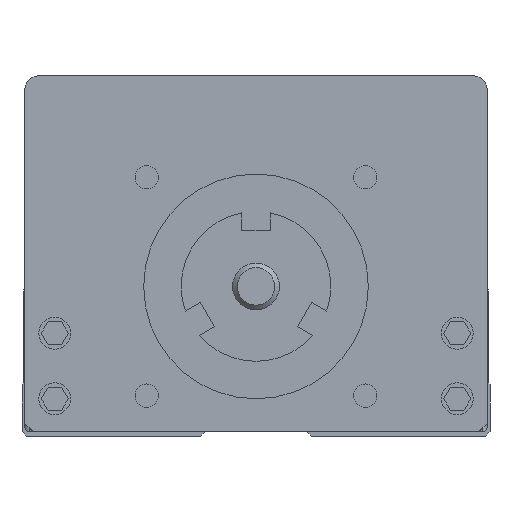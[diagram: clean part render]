
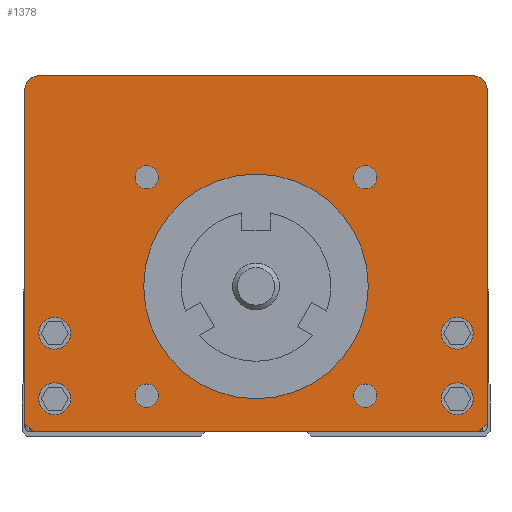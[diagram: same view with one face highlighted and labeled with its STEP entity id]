
A CAD part, front view. The second image highlights one B-rep face of the part: STEP entity #1378.
In plain terms, the highlighted planar face has unit normal (0, -1, 0).
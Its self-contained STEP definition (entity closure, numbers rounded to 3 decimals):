
#1378=ADVANCED_FACE('',(#2262,#2263,#2264,#2265,#2266,#2267,#2268,#2269,
#2270,#2271),#1936,.F.);
#1936=PLANE('',#11057);
#2262=FACE_BOUND('',#2644,.T.);
#2263=FACE_BOUND('',#2645,.T.);
#2264=FACE_BOUND('',#2646,.T.);
#2265=FACE_BOUND('',#2647,.T.);
#2266=FACE_BOUND('',#2648,.T.);
#2267=FACE_BOUND('',#2649,.T.);
#2268=FACE_BOUND('',#2650,.T.);
#2269=FACE_BOUND('',#2651,.T.);
#2270=FACE_BOUND('',#2652,.T.);
#2271=FACE_BOUND('',#2653,.T.);
#2644=EDGE_LOOP('',(#5610,#5611,#5612,#5613,#5614,#5615,#5616,#5617));
#2645=EDGE_LOOP('',(#5618));
#2646=EDGE_LOOP('',(#5619));
#2647=EDGE_LOOP('',(#5620));
#2648=EDGE_LOOP('',(#5621));
#2649=EDGE_LOOP('',(#5622));
#2650=EDGE_LOOP('',(#5623));
#2651=EDGE_LOOP('',(#5624));
#2652=EDGE_LOOP('',(#5625));
#2653=EDGE_LOOP('',(#5626));
#3411=LINE('',#15623,#4303);
#3449=LINE('',#15757,#4341);
#3454=LINE('',#15771,#4346);
#3455=LINE('',#15773,#4347);
#3456=LINE('',#15774,#4348);
#3457=LINE('',#15775,#4349);
#4303=VECTOR('',#12415,1.);
#4341=VECTOR('',#12543,1.);
#4346=VECTOR('',#12558,1.);
#4347=VECTOR('',#12561,1.);
#4348=VECTOR('',#12562,1.);
#4349=VECTOR('',#12563,1.);
#5610=ORIENTED_EDGE('',*,*,#9204,.F.);
#5611=ORIENTED_EDGE('',*,*,#9261,.F.);
#5612=ORIENTED_EDGE('',*,*,#9273,.F.);
#5613=ORIENTED_EDGE('',*,*,#9265,.F.);
#5614=ORIENTED_EDGE('',*,*,#9274,.F.);
#5615=ORIENTED_EDGE('',*,*,#9272,.F.);
#5616=ORIENTED_EDGE('',*,*,#9275,.F.);
#5617=ORIENTED_EDGE('',*,*,#9276,.F.);
#5618=ORIENTED_EDGE('',*,*,#9202,.F.);
#5619=ORIENTED_EDGE('',*,*,#9201,.F.);
#5620=ORIENTED_EDGE('',*,*,#9199,.F.);
#5621=ORIENTED_EDGE('',*,*,#9196,.F.);
#5622=ORIENTED_EDGE('',*,*,#9194,.F.);
#5623=ORIENTED_EDGE('',*,*,#9193,.F.);
#5624=ORIENTED_EDGE('',*,*,#9192,.F.);
#5625=ORIENTED_EDGE('',*,*,#9191,.F.);
#5626=ORIENTED_EDGE('',*,*,#9190,.F.);
#8141=VERTEX_POINT('',#15587);
#8142=VERTEX_POINT('',#15590);
#8143=VERTEX_POINT('',#15593);
#8144=VERTEX_POINT('',#15596);
#8145=VERTEX_POINT('',#15599);
#8147=VERTEX_POINT('',#15604);
#8150=VERTEX_POINT('',#15611);
#8152=VERTEX_POINT('',#15616);
#8153=VERTEX_POINT('',#15619);
#8154=VERTEX_POINT('',#15622);
#8155=VERTEX_POINT('',#15624);
#8188=VERTEX_POINT('',#15748);
#8189=VERTEX_POINT('',#15752);
#8191=VERTEX_POINT('',#15756);
#8194=VERTEX_POINT('',#15768);
#8195=VERTEX_POINT('',#15770);
#8196=VERTEX_POINT('',#15776);
#9190=EDGE_CURVE('',#8141,#8141,#10483,.T.);
#9191=EDGE_CURVE('',#8142,#8142,#10484,.T.);
#9192=EDGE_CURVE('',#8143,#8143,#10485,.T.);
#9193=EDGE_CURVE('',#8144,#8144,#10486,.T.);
#9194=EDGE_CURVE('',#8145,#8145,#10487,.T.);
#9196=EDGE_CURVE('',#8147,#8147,#10489,.T.);
#9199=EDGE_CURVE('',#8150,#8150,#10492,.T.);
#9201=EDGE_CURVE('',#8152,#8152,#10494,.T.);
#9202=EDGE_CURVE('',#8153,#8153,#10495,.T.);
#9204=EDGE_CURVE('',#8154,#8155,#3411,.T.);
#9261=EDGE_CURVE('',#8188,#8154,#10513,.T.);
#9265=EDGE_CURVE('',#8191,#8189,#3449,.T.);
#9272=EDGE_CURVE('',#8195,#8194,#3454,.T.);
#9273=EDGE_CURVE('',#8189,#8188,#3455,.T.);
#9274=EDGE_CURVE('',#8194,#8191,#3456,.T.);
#9275=EDGE_CURVE('',#8196,#8195,#3457,.T.);
#9276=EDGE_CURVE('',#8155,#8196,#10515,.T.);
#10483=CIRCLE('',#10983,1.25);
#10484=CIRCLE('',#10985,1.25);
#10485=CIRCLE('',#10987,1.25);
#10486=CIRCLE('',#10989,1.25);
#10487=CIRCLE('',#10991,1.7);
#10489=CIRCLE('',#10994,1.7);
#10492=CIRCLE('',#10998,1.7);
#10494=CIRCLE('',#11001,1.7);
#10495=CIRCLE('',#11003,12.);
#10513=CIRCLE('',#11047,1.5);
#10515=CIRCLE('',#11056,1.5);
#10983=AXIS2_PLACEMENT_3D('',#15586,#12370,#12371);
#10985=AXIS2_PLACEMENT_3D('',#15589,#12374,#12375);
#10987=AXIS2_PLACEMENT_3D('',#15592,#12378,#12379);
#10989=AXIS2_PLACEMENT_3D('',#15595,#12382,#12383);
#10991=AXIS2_PLACEMENT_3D('',#15598,#12386,#12387);
#10994=AXIS2_PLACEMENT_3D('',#15603,#12392,#12393);
#10998=AXIS2_PLACEMENT_3D('',#15610,#12400,#12401);
#11001=AXIS2_PLACEMENT_3D('',#15615,#12406,#12407);
#11003=AXIS2_PLACEMENT_3D('',#15618,#12410,#12411);
#11047=AXIS2_PLACEMENT_3D('',#15749,#12535,#12536);
#11056=AXIS2_PLACEMENT_3D('',#15777,#12564,#12565);
#11057=AXIS2_PLACEMENT_3D('',#15778,#12566,#12567);
#12370=DIRECTION('',(0.,-1.,0.));
#12371=DIRECTION('',(1.,0.,0.));
#12374=DIRECTION('',(0.,-1.,0.));
#12375=DIRECTION('',(1.,0.,0.));
#12378=DIRECTION('',(0.,-1.,0.));
#12379=DIRECTION('',(1.,0.,0.));
#12382=DIRECTION('',(0.,-1.,0.));
#12383=DIRECTION('',(1.,0.,0.));
#12386=DIRECTION('',(0.,-1.,0.));
#12387=DIRECTION('',(1.,0.,0.));
#12392=DIRECTION('',(0.,-1.,0.));
#12393=DIRECTION('',(1.,0.,0.));
#12400=DIRECTION('',(0.,-1.,0.));
#12401=DIRECTION('',(1.,0.,0.));
#12406=DIRECTION('',(0.,-1.,0.));
#12407=DIRECTION('',(1.,0.,0.));
#12410=DIRECTION('',(0.,-1.,0.));
#12411=DIRECTION('',(1.,0.,0.));
#12415=DIRECTION('',(1.,0.,0.));
#12535=DIRECTION('',(0.,1.,0.));
#12536=DIRECTION('',(-1.,0.,0.));
#12543=DIRECTION('',(-0.707,0.,0.707));
#12558=DIRECTION('',(-0.707,0.,-0.707));
#12561=DIRECTION('',(0.,0.,1.));
#12562=DIRECTION('',(-1.,0.,0.));
#12563=DIRECTION('',(0.,0.,-1.));
#12564=DIRECTION('',(0.,1.,0.));
#12565=DIRECTION('',(0.,0.,1.));
#12566=DIRECTION('',(0.,1.,0.));
#12567=DIRECTION('',(1.,0.,0.));
#15586=CARTESIAN_POINT('',(-11.667,50.,27.167));
#15587=CARTESIAN_POINT('',(-10.417,50.,27.167));
#15589=CARTESIAN_POINT('',(-11.667,50.,3.833));
#15590=CARTESIAN_POINT('',(-10.417,50.,3.833));
#15592=CARTESIAN_POINT('',(11.667,50.,3.833));
#15593=CARTESIAN_POINT('',(12.917,50.,3.833));
#15595=CARTESIAN_POINT('',(11.667,50.,27.167));
#15596=CARTESIAN_POINT('',(12.917,50.,27.167));
#15598=CARTESIAN_POINT('',(-21.5,50.,3.5));
#15599=CARTESIAN_POINT('',(-19.8,50.,3.5));
#15603=CARTESIAN_POINT('',(-21.5,50.,10.5));
#15604=CARTESIAN_POINT('',(-19.8,50.,10.5));
#15610=CARTESIAN_POINT('',(21.5,50.,10.5));
#15611=CARTESIAN_POINT('',(23.2,50.,10.5));
#15615=CARTESIAN_POINT('',(21.5,50.,3.5));
#15616=CARTESIAN_POINT('',(23.2,50.,3.5));
#15618=CARTESIAN_POINT('',(0.,50.,15.5));
#15619=CARTESIAN_POINT('',(12.,50.,15.5));
#15622=CARTESIAN_POINT('',(-23.2,50.,38.));
#15623=CARTESIAN_POINT('',(-23.2,50.,38.));
#15624=CARTESIAN_POINT('',(23.2,50.,38.));
#15748=CARTESIAN_POINT('',(-24.7,50.,36.5));
#15749=CARTESIAN_POINT('',(-23.2,50.,36.5));
#15752=CARTESIAN_POINT('',(-24.7,50.,0.9));
#15756=CARTESIAN_POINT('',(-23.8,50.,0.));
#15757=CARTESIAN_POINT('',(-23.8,50.,0.));
#15768=CARTESIAN_POINT('',(23.8,50.,0.));
#15770=CARTESIAN_POINT('',(24.7,50.,0.9));
#15771=CARTESIAN_POINT('',(24.7,50.,0.9));
#15773=CARTESIAN_POINT('',(-24.7,50.,0.9));
#15774=CARTESIAN_POINT('',(23.8,50.,0.));
#15775=CARTESIAN_POINT('',(24.7,50.,36.5));
#15776=CARTESIAN_POINT('',(24.7,50.,36.5));
#15777=CARTESIAN_POINT('',(23.2,50.,36.5));
#15778=CARTESIAN_POINT('',(0.,50.,19.));
